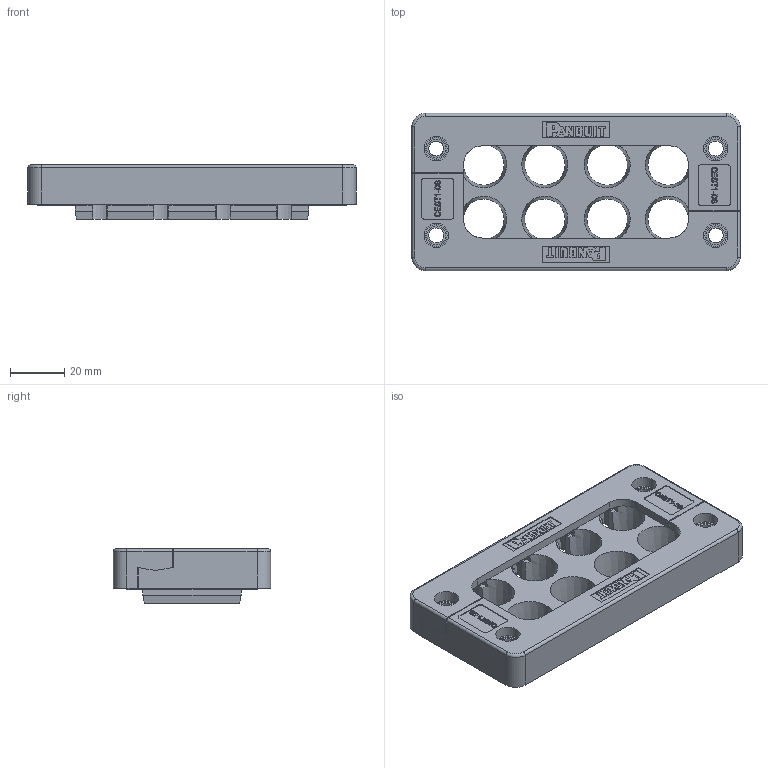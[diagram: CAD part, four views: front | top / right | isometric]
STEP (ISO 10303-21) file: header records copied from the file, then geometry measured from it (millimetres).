
FILE_DESCRIPTION(/* description */ (''),/* implementation_level */ '2;1');
FILE_NAME(/* name */ 'H:\SapWorkDir\Inventor\MP1\ConvertTempPath\87_11_121459_00_A_220620_KDL-C 16-8 ZSB.stp',/* time_stamp */ '2022-06-20T09:37:32+02:00',/* author */ ('BAUER'),/* organization */ (''),/* preprocessor_version */ 'ST-DEVELOPER v16.13',/* originating_system */ 'Autodesk Inventor 2018',/* authorisation */ '');
FILE_SCHEMA (('AUTOMOTIVE_DESIGN { 1 0 10303 214 3 1 1 }'));
Length unit declared in the file: millimetre
Products named in the file (3): 121459; 16-polig_Tüllenblock; 121404
Assembly tree (3 placements, depth 2):
  121459
    16-polig_Tüllenblock
    121404  x2
Bounding box: 121 x 58 x 20 mm (x, y, z)
Volume: 76092.7 mm3; surface area: 39214.3 mm2
Topology: 3 solids, 3 shells, 983 faces, 2665 edges, 1770 vertices
Faces by surface type: plane 640, bspline 165, cylinder 156, torus 12, cone 10
Full cylindrical faces by diameter (mm): 5 x4, 5.5 x10, 6 x2, 7 x4, 8 x4, 9 x4
Entity records: 22106 total; most frequent: CARTESIAN_POINT 5214, ORIENTED_EDGE 3696, DIRECTION 3086, EDGE_CURVE 1848, LINE 1320, VECTOR 1320, VERTEX_POINT 1235, AXIS2_PLACEMENT_3D 883
